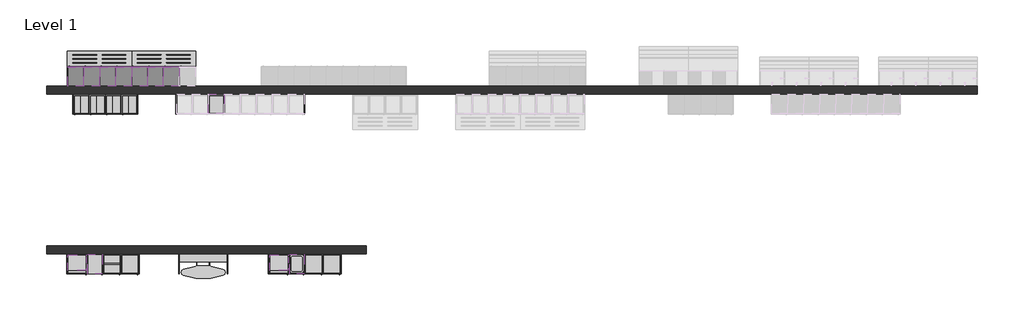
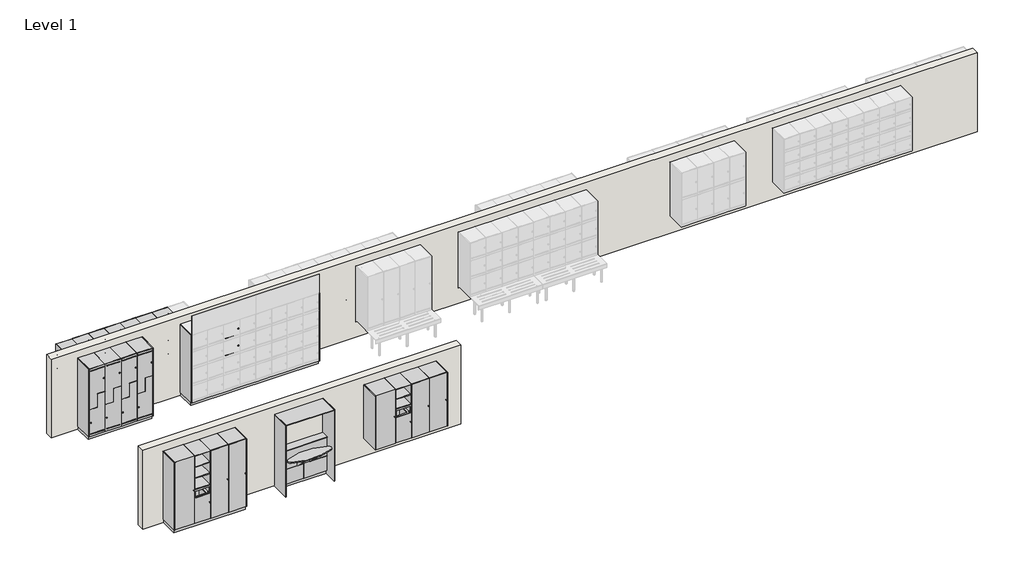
# One storey, part 1 of 4: 115 furniture elements, 2 walls.
"""IFC4 building model written with IfcOpenShell, lengths in millimetres."""

from ifc_helpers import new_model, si_unit, origin, origin_with_axes, place, context, project, spatial, polyline, outline, extrude, transform, mapped, element, save
from components import furniture_8c00c06e, furniture_f3d205c9, furniture_8214ae09, furniture_fe364a06, furniture_aa930519, standard_2dcb62da, standard_f5ae554c, standard_45df0485, standard_98e0e482, standard_d3161605, standard_4a91ac64, standard_77ee1bcb, standard_e3a21a26, standard_40445af7, standard_a614ba5f, standard_03c1f8a1, standard_9bb63482, standard_4930f884, standard_86fa131c, standard_540d4d76, standard_fa3f27c9, standard_7234d687, standard_b71e501f, standard_578dc294, standard_a6131b2d, standard_82cc17a7, standard_a539c340, standard_99a499ae, standard_25a9957e, standard_c9a665b5, standard_0a05bd14, standard_d1edd0f1, standard_a5c37325, standard_9a15c5b4, standard_f60cbfea

model = new_model("IFC4")

# Units and contexts
model_context = context("Model", 3, world=origin())
ifc_project = project(units=[si_unit("LENGTHUNIT", "METRE", prefix="MILLI")], contexts=[model_context])

# Site, building, storey
site = spatial("IfcSite", under=ifc_project)
building = spatial("IfcBuilding", under=site)
storey = spatial("IfcBuildingStorey", under=building, Name="Level 1", Elevation=0.0)

# Furniture
placement = place(None, origin())
furniture_shape = furniture_8c00c06e(model_context)
element("IfcFurniture", 1, ObjectType="Lockers-Bay-Duracube-Duraloc : LPM-1900h x 500d x 400w with 100h x 50d Plinth-Stepped", at=placement, inside=storey, context=model_context, shape_type="MappedRepresentation", body=[
    mapped(furniture_shape, transform((-10635.1575415, 2567.7422336, 0.0), x_axis=(1.0, 0.0, 0.0), y_axis=(0.0, 1.0, 0.0), z_axis=(0.0, 0.0, 1.0))),
])
furniture_2_shape = furniture_f3d205c9(model_context)
element("IfcFurniture", 2, ObjectType="Lockers-Bay-Duracube-Duraloc : LPM-1900h x 500d x 400w with 100h x 50d Plinth", at=placement, inside=storey, context=model_context, shape_type="MappedRepresentation", body=[
    mapped(furniture_2_shape, transform((-8055.1575415, 2567.7422336, 0.0), x_axis=(1.0, 0.0, 0.0), y_axis=(0.0, 1.0, 0.0), z_axis=(0.0, 0.0, 1.0))),
])
furniture_3_shape = furniture_8214ae09(model_context)
element("IfcFurniture", 3, ObjectType="Lockers-Bay-Duracube-Duraloc : LWM-1900h x 500d x 400w @ 470h Wall", at=placement, inside=storey, context=model_context, shape_type="MappedRepresentation", body=[
    mapped(furniture_3_shape, transform((-10368.1575415, 3267.7422336, 0.0), x_axis=(-1.0, 0.0, 0.0), y_axis=(0.0, -1.0, 0.0), z_axis=(0.0, 0.0, 1.0))),
])
furniture_4_shape = furniture_fe364a06(model_context)
element("IfcFurniture", 4, ObjectType="Lockers-Bay-Duracube-End of Trip : LPM-1900h x 500d with 100h x 50d Plinth", at=placement, inside=storey, context=model_context, shape_type="MappedRepresentation", body=[
    mapped(furniture_4_shape, transform((-10795.1575415, -1432.2577664, 0.0), x_axis=(1.0, 0.0, 0.0), y_axis=(0.0, 1.0, 0.0), z_axis=(0.0, 0.0, 1.0))),
])
furniture_5_shape = furniture_aa930519(model_context)
element("IfcFurniture", 5, ObjectType="Lockers-Bay-Duracube-End of Trip : LWM-1900h x 500d @ 470h Wall", at=placement, inside=storey, context=model_context, shape_type="MappedRepresentation", body=[
    mapped(furniture_5_shape, transform((-5743.1575415, -1432.2577664, 0.0), x_axis=(1.0, 0.0, 0.0), y_axis=(0.0, 1.0, 0.0), z_axis=(0.0, 0.0, 1.0))),
])
standard_shape = standard_2dcb62da(model_context)
element("IfcFurniture", 6, ObjectType="X_Bench-Foot-Duracube-Wall Assembly : Standard", at=placement, inside=storey, context=model_context, shape_type="MappedRepresentation", body=[
    mapped(standard_shape, transform((-8316.9572151, 3517.7422336, 0.0), x_axis=(-1.0, 0.0, 0.0), y_axis=(0.0, -1.0, 0.0), z_axis=(0.0, 0.0, 1.0))),
])
element("IfcFurniture", 7, ObjectType="X_Bench-Foot-Duracube-Wall Assembly : Standard", at=placement, inside=storey, context=model_context, shape_type="MappedRepresentation", body=[
    mapped(standard_shape, transform((-9236.9572151, 3517.7422336, 0.0), x_axis=(-1.0, 0.0, 0.0), y_axis=(0.0, -1.0, 0.0), z_axis=(0.0, 0.0, 1.0))),
])
element("IfcFurniture", 8, ObjectType="X_Bench-Foot-Duracube-Wall Assembly : Standard", at=placement, inside=storey, context=model_context, shape_type="MappedRepresentation", body=[
    mapped(standard_shape, transform((-9929.9572151, 3517.7422336, 0.0), x_axis=(-1.0, 0.0, 0.0), y_axis=(0.0, -1.0, 0.0), z_axis=(0.0, 0.0, 1.0))),
])
standard_2_shape = standard_f5ae554c(model_context)
element("IfcFurniture", 9, ObjectType="X_Bench-Foot-Duracube-Wall Assembly : Standard", at=placement, inside=storey, context=model_context, shape_type="MappedRepresentation", body=[
    mapped(standard_2_shape, transform((-9099.357868, 3517.7422336, 0.0), x_axis=(1.0, 0.0, 0.0), y_axis=(0.0, 1.0, 0.0), z_axis=(0.0, 0.0, 1.0))),
])
element("IfcFurniture", 10, ObjectType="X_Bench-Foot-Duracube-Wall Assembly : Standard", at=placement, inside=storey, context=model_context, shape_type="MappedRepresentation", body=[
    mapped(standard_2_shape, transform((-10712.357868, 3517.7422336, 0.0), x_axis=(1.0, 0.0, 0.0), y_axis=(0.0, 1.0, 0.0), z_axis=(0.0, 0.0, 1.0))),
])
standard_3_shape = standard_45df0485(model_context)
element("IfcFurniture", 11, ObjectType="X_Vanity-Angle-Duracube-Bench Support : Standard", at=placement, inside=storey, context=model_context, shape_type="MappedRepresentation", body=[
    mapped(standard_3_shape, transform((-8316.9572151, 3017.7422336, 417.0), x_axis=(-1.0, 0.0, 0.0), y_axis=(0.0, -1.0, 0.0), z_axis=(0.0, 0.0, 1.0))),
])
element("IfcFurniture", 12, ObjectType="X_Vanity-Angle-Duracube-Bench Support : Standard", at=placement, inside=storey, context=model_context, shape_type="MappedRepresentation", body=[
    mapped(standard_3_shape, transform((-9929.9572151, 3017.7422336, 417.0), x_axis=(-1.0, 0.0, 0.0), y_axis=(0.0, -1.0, 0.0), z_axis=(0.0, 0.0, 1.0))),
])
standard_4_shape = standard_98e0e482(model_context)
element("IfcFurniture", 13, ObjectType="X_Bench-Wall-Duracube-Locker : Standard", at=placement, inside=storey, context=model_context, shape_type="MappedRepresentation", body=[
    mapped(standard_4_shape, transform((-8316.9572151, 3110.2422336, 0.0), x_axis=(-1.0, 0.0, 0.0), y_axis=(0.0, -1.0, 0.0), z_axis=(0.0, 0.0, 1.0))),
])
element("IfcFurniture", 14, ObjectType="X_Bench-Wall-Duracube-Locker : Standard", at=placement, inside=storey, context=model_context, shape_type="MappedRepresentation", body=[
    mapped(standard_4_shape, transform((-9929.9572151, 3110.2422336, 0.0), x_axis=(-1.0, 0.0, 0.0), y_axis=(0.0, -1.0, 0.0), z_axis=(0.0, 0.0, 1.0))),
])
standard_5_shape = standard_d3161605(model_context)
element("IfcFurniture", 15, ObjectType="X_Locker-Duracube-Bay : Standard", at=placement, inside=storey, context=model_context, shape_type="MappedRepresentation", body=[
    mapped(standard_5_shape, transform((-9266.857868, 2817.7422336, 1180.0), x_axis=(1.0, 0.0, 0.0), y_axis=(0.0, 1.0, 0.0), z_axis=(0.0, 0.0, 1.0))),
])
element("IfcFurniture", 16, ObjectType="X_Locker-Duracube-Bay : Standard", at=placement, inside=storey, context=model_context, shape_type="MappedRepresentation", body=[
    mapped(standard_5_shape, transform((-9666.857868, 2817.7422336, 1180.0), x_axis=(1.0, 0.0, 0.0), y_axis=(0.0, 1.0, 0.0), z_axis=(0.0, 0.0, 1.0))),
])
element("IfcFurniture", 17, ObjectType="X_Locker-Duracube-Bay : Standard", at=placement, inside=storey, context=model_context, shape_type="MappedRepresentation", body=[
    mapped(standard_5_shape, transform((-10066.857868, 2817.7422336, 1180.0), x_axis=(1.0, 0.0, 0.0), y_axis=(0.0, 1.0, 0.0), z_axis=(0.0, 0.0, 1.0))),
])
element("IfcFurniture", 18, ObjectType="X_Locker-Duracube-Bay : Standard", at=placement, inside=storey, context=model_context, shape_type="MappedRepresentation", body=[
    mapped(standard_5_shape, transform((-10466.857868, 2817.7422336, 1180.0), x_axis=(1.0, 0.0, 0.0), y_axis=(0.0, 1.0, 0.0), z_axis=(0.0, 0.0, 1.0))),
])
standard_6_shape = standard_4a91ac64(model_context)
element("IfcFurniture", 19, ObjectType="X_Locker-Duracube-Door : Standard", at=placement, inside=storey, context=model_context, shape_type="MappedRepresentation", body=[
    mapped(standard_6_shape, transform((-9266.857868, 2330.7422336, 1180.0), x_axis=(1.0, 0.0, 0.0), y_axis=(0.0, 1.0, 0.0), z_axis=(0.0, 0.0, 1.0))),
])
element("IfcFurniture", 20, ObjectType="X_Locker-Duracube-Door : Standard", at=placement, inside=storey, context=model_context, shape_type="MappedRepresentation", body=[
    mapped(standard_6_shape, transform((-9666.857868, 2330.7422336, 1180.0), x_axis=(1.0, 0.0, 0.0), y_axis=(0.0, 1.0, 0.0), z_axis=(0.0, 0.0, 1.0))),
])
element("IfcFurniture", 21, ObjectType="X_Locker-Duracube-Door : Standard", at=placement, inside=storey, context=model_context, shape_type="MappedRepresentation", body=[
    mapped(standard_6_shape, transform((-10066.857868, 2330.7422336, 1180.0), x_axis=(1.0, 0.0, 0.0), y_axis=(0.0, 1.0, 0.0), z_axis=(0.0, 0.0, 1.0))),
])
element("IfcFurniture", 22, ObjectType="X_Locker-Duracube-Door : Standard", at=placement, inside=storey, context=model_context, shape_type="MappedRepresentation", body=[
    mapped(standard_6_shape, transform((-10466.857868, 2330.7422336, 1180.0), x_axis=(1.0, 0.0, 0.0), y_axis=(0.0, 1.0, 0.0), z_axis=(0.0, 0.0, 1.0))),
])
standard_7_shape = standard_77ee1bcb(model_context)
element("IfcFurniture", 23, ObjectType="X_Locker-Duracube-Bay : Standard", at=placement, inside=storey, context=model_context, shape_type="MappedRepresentation", body=[
    mapped(standard_7_shape, transform((-9266.857868, 2817.7422336, 100.0), x_axis=(1.0, 0.0, 0.0), y_axis=(0.0, 1.0, 0.0), z_axis=(0.0, 0.0, 1.0))),
])
element("IfcFurniture", 24, ObjectType="X_Locker-Duracube-Bay : Standard", at=placement, inside=storey, context=model_context, shape_type="MappedRepresentation", body=[
    mapped(standard_7_shape, transform((-9666.857868, 2817.7422336, 100.0), x_axis=(1.0, 0.0, 0.0), y_axis=(0.0, 1.0, 0.0), z_axis=(0.0, 0.0, 1.0))),
])
element("IfcFurniture", 25, ObjectType="X_Locker-Duracube-Bay : Standard", at=placement, inside=storey, context=model_context, shape_type="MappedRepresentation", body=[
    mapped(standard_7_shape, transform((-10066.857868, 2817.7422336, 100.0), x_axis=(1.0, 0.0, 0.0), y_axis=(0.0, 1.0, 0.0), z_axis=(0.0, 0.0, 1.0))),
])
element("IfcFurniture", 26, ObjectType="X_Locker-Duracube-Bay : Standard", at=placement, inside=storey, context=model_context, shape_type="MappedRepresentation", body=[
    mapped(standard_7_shape, transform((-10466.857868, 2817.7422336, 100.0), x_axis=(1.0, 0.0, 0.0), y_axis=(0.0, 1.0, 0.0), z_axis=(0.0, 0.0, 1.0))),
])
standard_8_shape = standard_e3a21a26(model_context)
element("IfcFurniture", 27, ObjectType="X_Locker-Duracube-Door : Standard", at=placement, inside=storey, context=model_context, shape_type="MappedRepresentation", body=[
    mapped(standard_8_shape, transform((-9266.857868, 2330.7422336, 100.0), x_axis=(1.0, 0.0, 0.0), y_axis=(0.0, 1.0, 0.0), z_axis=(0.0, 0.0, 1.0))),
])
element("IfcFurniture", 28, ObjectType="X_Locker-Duracube-Door : Standard", at=placement, inside=storey, context=model_context, shape_type="MappedRepresentation", body=[
    mapped(standard_8_shape, transform((-9666.857868, 2330.7422336, 100.0), x_axis=(1.0, 0.0, 0.0), y_axis=(0.0, 1.0, 0.0), z_axis=(0.0, 0.0, 1.0))),
])
element("IfcFurniture", 29, ObjectType="X_Locker-Duracube-Door : Standard", at=placement, inside=storey, context=model_context, shape_type="MappedRepresentation", body=[
    mapped(standard_8_shape, transform((-10066.857868, 2330.7422336, 100.0), x_axis=(1.0, 0.0, 0.0), y_axis=(0.0, 1.0, 0.0), z_axis=(0.0, 0.0, 1.0))),
])
element("IfcFurniture", 30, ObjectType="X_Locker-Duracube-Door : Standard", at=placement, inside=storey, context=model_context, shape_type="MappedRepresentation", body=[
    mapped(standard_8_shape, transform((-10466.857868, 2330.7422336, 100.0), x_axis=(1.0, 0.0, 0.0), y_axis=(0.0, 1.0, 0.0), z_axis=(0.0, 0.0, 1.0))),
])
standard_9_shape = standard_40445af7(model_context)
element("IfcFurniture", 31, ObjectType="X_Locker-Duracube-Bay : Standard", at=placement, inside=storey, context=model_context, shape_type="MappedRepresentation", body=[
    mapped(standard_9_shape, transform((-8123.4572151, 3017.7422336, 827.5), x_axis=(-1.0, 0.0, 0.0), y_axis=(0.0, -1.0, 0.0), z_axis=(0.0, 0.0, 1.0))),
])
element("IfcFurniture", 32, ObjectType="X_Locker-Duracube-Bay : Standard", at=placement, inside=storey, context=model_context, shape_type="MappedRepresentation", body=[
    mapped(standard_9_shape, transform((-8123.4572151, 3017.7422336, 1542.5), x_axis=(-1.0, 0.0, 0.0), y_axis=(0.0, -1.0, 0.0), z_axis=(0.0, 0.0, 1.0))),
])
element("IfcFurniture", 33, ObjectType="X_Locker-Duracube-Bay : Standard", at=placement, inside=storey, context=model_context, shape_type="MappedRepresentation", body=[
    mapped(standard_9_shape, transform((-8523.4572151, 3017.7422336, 470.0), x_axis=(-1.0, 0.0, 0.0), y_axis=(0.0, -1.0, 0.0), z_axis=(0.0, 0.0, 1.0))),
])
element("IfcFurniture", 34, ObjectType="X_Locker-Duracube-Bay : Standard", at=placement, inside=storey, context=model_context, shape_type="MappedRepresentation", body=[
    mapped(standard_9_shape, transform((-8523.4572151, 3017.7422336, 1185.0), x_axis=(-1.0, 0.0, 0.0), y_axis=(0.0, -1.0, 0.0), z_axis=(0.0, 0.0, 1.0))),
])
element("IfcFurniture", 35, ObjectType="X_Locker-Duracube-Bay : Standard", at=placement, inside=storey, context=model_context, shape_type="MappedRepresentation", body=[
    mapped(standard_9_shape, transform((-8923.4572151, 3017.7422336, 827.5), x_axis=(-1.0, 0.0, 0.0), y_axis=(0.0, -1.0, 0.0), z_axis=(0.0, 0.0, 1.0))),
])
element("IfcFurniture", 36, ObjectType="X_Locker-Duracube-Bay : Standard", at=placement, inside=storey, context=model_context, shape_type="MappedRepresentation", body=[
    mapped(standard_9_shape, transform((-8923.4572151, 3017.7422336, 1542.5), x_axis=(-1.0, 0.0, 0.0), y_axis=(0.0, -1.0, 0.0), z_axis=(0.0, 0.0, 1.0))),
])
element("IfcFurniture", 37, ObjectType="X_Locker-Duracube-Bay : Standard", at=placement, inside=storey, context=model_context, shape_type="MappedRepresentation", body=[
    mapped(standard_9_shape, transform((-9323.4572151, 3017.7422336, 470.0), x_axis=(-1.0, 0.0, 0.0), y_axis=(0.0, -1.0, 0.0), z_axis=(0.0, 0.0, 1.0))),
])
element("IfcFurniture", 38, ObjectType="X_Locker-Duracube-Bay : Standard", at=placement, inside=storey, context=model_context, shape_type="MappedRepresentation", body=[
    mapped(standard_9_shape, transform((-9323.4572151, 3017.7422336, 1185.0), x_axis=(-1.0, 0.0, 0.0), y_axis=(0.0, -1.0, 0.0), z_axis=(0.0, 0.0, 1.0))),
])
element("IfcFurniture", 39, ObjectType="X_Locker-Duracube-Bay : Standard", at=placement, inside=storey, context=model_context, shape_type="MappedRepresentation", body=[
    mapped(standard_9_shape, transform((-9723.4572151, 3017.7422336, 827.5), x_axis=(-1.0, 0.0, 0.0), y_axis=(0.0, -1.0, 0.0), z_axis=(0.0, 0.0, 1.0))),
])
element("IfcFurniture", 40, ObjectType="X_Locker-Duracube-Bay : Standard", at=placement, inside=storey, context=model_context, shape_type="MappedRepresentation", body=[
    mapped(standard_9_shape, transform((-9723.4572151, 3017.7422336, 1542.5), x_axis=(-1.0, 0.0, 0.0), y_axis=(0.0, -1.0, 0.0), z_axis=(0.0, 0.0, 1.0))),
])
element("IfcFurniture", 41, ObjectType="X_Locker-Duracube-Bay : Standard", at=placement, inside=storey, context=model_context, shape_type="MappedRepresentation", body=[
    mapped(standard_9_shape, transform((-10123.4572151, 3017.7422336, 470.0), x_axis=(-1.0, 0.0, 0.0), y_axis=(0.0, -1.0, 0.0), z_axis=(0.0, 0.0, 1.0))),
])
element("IfcFurniture", 42, ObjectType="X_Locker-Duracube-Bay : Standard", at=placement, inside=storey, context=model_context, shape_type="MappedRepresentation", body=[
    mapped(standard_9_shape, transform((-10123.4572151, 3017.7422336, 1185.0), x_axis=(-1.0, 0.0, 0.0), y_axis=(0.0, -1.0, 0.0), z_axis=(0.0, 0.0, 1.0))),
])
element("IfcFurniture", 43, ObjectType="X_Locker-Duracube-Bay : Standard", at=placement, inside=storey, context=model_context, shape_type="MappedRepresentation", body=[
    mapped(standard_9_shape, transform((-10523.4572151, 3017.7422336, 827.5), x_axis=(-1.0, 0.0, 0.0), y_axis=(0.0, -1.0, 0.0), z_axis=(0.0, 0.0, 1.0))),
])
element("IfcFurniture", 44, ObjectType="X_Locker-Duracube-Bay : Standard", at=placement, inside=storey, context=model_context, shape_type="MappedRepresentation", body=[
    mapped(standard_9_shape, transform((-10523.4572151, 3017.7422336, 1542.5), x_axis=(-1.0, 0.0, 0.0), y_axis=(0.0, -1.0, 0.0), z_axis=(0.0, 0.0, 1.0))),
])
standard_10_shape = standard_a614ba5f(model_context)
element("IfcFurniture", 45, ObjectType="X_Locker-Duracube-Door : Standard", at=placement, inside=storey, context=model_context, shape_type="MappedRepresentation", body=[
    mapped(standard_10_shape, transform((-8123.4572151, 3504.7422336, 827.5), x_axis=(-1.0, 0.0, 0.0), y_axis=(0.0, -1.0, 0.0), z_axis=(0.0, 0.0, 1.0))),
])
element("IfcFurniture", 46, ObjectType="X_Locker-Duracube-Door : Standard", at=placement, inside=storey, context=model_context, shape_type="MappedRepresentation", body=[
    mapped(standard_10_shape, transform((-8123.4572151, 3504.7422336, 1542.5), x_axis=(-1.0, 0.0, 0.0), y_axis=(0.0, -1.0, 0.0), z_axis=(0.0, 0.0, 1.0))),
])
element("IfcFurniture", 47, ObjectType="X_Locker-Duracube-Door : Standard", at=placement, inside=storey, context=model_context, shape_type="MappedRepresentation", body=[
    mapped(standard_10_shape, transform((-8523.4572151, 3504.7422336, 470.0), x_axis=(-1.0, 0.0, 0.0), y_axis=(0.0, -1.0, 0.0), z_axis=(0.0, 0.0, 1.0))),
])
element("IfcFurniture", 48, ObjectType="X_Locker-Duracube-Door : Standard", at=placement, inside=storey, context=model_context, shape_type="MappedRepresentation", body=[
    mapped(standard_10_shape, transform((-8523.4572151, 3504.7422336, 1185.0), x_axis=(-1.0, 0.0, 0.0), y_axis=(0.0, -1.0, 0.0), z_axis=(0.0, 0.0, 1.0))),
])
element("IfcFurniture", 49, ObjectType="X_Locker-Duracube-Door : Standard", at=placement, inside=storey, context=model_context, shape_type="MappedRepresentation", body=[
    mapped(standard_10_shape, transform((-8923.4572151, 3504.7422336, 827.5), x_axis=(-1.0, 0.0, 0.0), y_axis=(0.0, -1.0, 0.0), z_axis=(0.0, 0.0, 1.0))),
])
element("IfcFurniture", 50, ObjectType="X_Locker-Duracube-Door : Standard", at=placement, inside=storey, context=model_context, shape_type="MappedRepresentation", body=[
    mapped(standard_10_shape, transform((-8923.4572151, 3504.7422336, 1542.5), x_axis=(-1.0, 0.0, 0.0), y_axis=(0.0, -1.0, 0.0), z_axis=(0.0, 0.0, 1.0))),
])
element("IfcFurniture", 51, ObjectType="X_Locker-Duracube-Door : Standard", at=placement, inside=storey, context=model_context, shape_type="MappedRepresentation", body=[
    mapped(standard_10_shape, transform((-9323.4572151, 3504.7422336, 470.0), x_axis=(-1.0, 0.0, 0.0), y_axis=(0.0, -1.0, 0.0), z_axis=(0.0, 0.0, 1.0))),
])
element("IfcFurniture", 52, ObjectType="X_Locker-Duracube-Door : Standard", at=placement, inside=storey, context=model_context, shape_type="MappedRepresentation", body=[
    mapped(standard_10_shape, transform((-9323.4572151, 3504.7422336, 1185.0), x_axis=(-1.0, 0.0, 0.0), y_axis=(0.0, -1.0, 0.0), z_axis=(0.0, 0.0, 1.0))),
])
element("IfcFurniture", 53, ObjectType="X_Locker-Duracube-Door : Standard", at=placement, inside=storey, context=model_context, shape_type="MappedRepresentation", body=[
    mapped(standard_10_shape, transform((-9723.4572151, 3504.7422336, 827.5), x_axis=(-1.0, 0.0, 0.0), y_axis=(0.0, -1.0, 0.0), z_axis=(0.0, 0.0, 1.0))),
])
element("IfcFurniture", 54, ObjectType="X_Locker-Duracube-Door : Standard", at=placement, inside=storey, context=model_context, shape_type="MappedRepresentation", body=[
    mapped(standard_10_shape, transform((-9723.4572151, 3504.7422336, 1542.5), x_axis=(-1.0, 0.0, 0.0), y_axis=(0.0, -1.0, 0.0), z_axis=(0.0, 0.0, 1.0))),
])
element("IfcFurniture", 55, ObjectType="X_Locker-Duracube-Door : Standard", at=placement, inside=storey, context=model_context, shape_type="MappedRepresentation", body=[
    mapped(standard_10_shape, transform((-10123.4572151, 3504.7422336, 470.0), x_axis=(-1.0, 0.0, 0.0), y_axis=(0.0, -1.0, 0.0), z_axis=(0.0, 0.0, 1.0))),
])
element("IfcFurniture", 56, ObjectType="X_Locker-Duracube-Door : Standard", at=placement, inside=storey, context=model_context, shape_type="MappedRepresentation", body=[
    mapped(standard_10_shape, transform((-10123.4572151, 3504.7422336, 1185.0), x_axis=(-1.0, 0.0, 0.0), y_axis=(0.0, -1.0, 0.0), z_axis=(0.0, 0.0, 1.0))),
])
element("IfcFurniture", 57, ObjectType="X_Locker-Duracube-Door : Standard", at=placement, inside=storey, context=model_context, shape_type="MappedRepresentation", body=[
    mapped(standard_10_shape, transform((-10523.4572151, 3504.7422336, 827.5), x_axis=(-1.0, 0.0, 0.0), y_axis=(0.0, -1.0, 0.0), z_axis=(0.0, 0.0, 1.0))),
])
element("IfcFurniture", 58, ObjectType="X_Locker-Duracube-Door : Standard", at=placement, inside=storey, context=model_context, shape_type="MappedRepresentation", body=[
    mapped(standard_10_shape, transform((-10523.4572151, 3504.7422336, 1542.5), x_axis=(-1.0, 0.0, 0.0), y_axis=(0.0, -1.0, 0.0), z_axis=(0.0, 0.0, 1.0))),
])
element("IfcFurniture", 59, ObjectType="X_Locker-Duracube-Bay : Standard", at=placement, inside=storey, context=model_context, shape_type="MappedRepresentation", body=[
    mapped(standard_9_shape, transform((-8123.4572151, 3017.7422336, 1185.0), x_axis=(-1.0, 0.0, 0.0), y_axis=(0.0, -1.0, 0.0), z_axis=(0.0, 0.0, 1.0))),
])
element("IfcFurniture", 60, ObjectType="X_Locker-Duracube-Bay : Standard", at=placement, inside=storey, context=model_context, shape_type="MappedRepresentation", body=[
    mapped(standard_9_shape, transform((-8523.4572151, 3017.7422336, 827.5), x_axis=(-1.0, 0.0, 0.0), y_axis=(0.0, -1.0, 0.0), z_axis=(0.0, 0.0, 1.0))),
])
element("IfcFurniture", 61, ObjectType="X_Locker-Duracube-Bay : Standard", at=placement, inside=storey, context=model_context, shape_type="MappedRepresentation", body=[
    mapped(standard_9_shape, transform((-8923.4572151, 3017.7422336, 470.0), x_axis=(-1.0, 0.0, 0.0), y_axis=(0.0, -1.0, 0.0), z_axis=(0.0, 0.0, 1.0))),
])
element("IfcFurniture", 62, ObjectType="X_Locker-Duracube-Bay : Standard", at=placement, inside=storey, context=model_context, shape_type="MappedRepresentation", body=[
    mapped(standard_9_shape, transform((-9323.4572151, 3017.7422336, 1542.5), x_axis=(-1.0, 0.0, 0.0), y_axis=(0.0, -1.0, 0.0), z_axis=(0.0, 0.0, 1.0))),
])
element("IfcFurniture", 63, ObjectType="X_Locker-Duracube-Bay : Standard", at=placement, inside=storey, context=model_context, shape_type="MappedRepresentation", body=[
    mapped(standard_9_shape, transform((-9723.4572151, 3017.7422336, 470.0), x_axis=(-1.0, 0.0, 0.0), y_axis=(0.0, -1.0, 0.0), z_axis=(0.0, 0.0, 1.0))),
])
element("IfcFurniture", 64, ObjectType="X_Locker-Duracube-Bay : Standard", at=placement, inside=storey, context=model_context, shape_type="MappedRepresentation", body=[
    mapped(standard_9_shape, transform((-10123.4572151, 3017.7422336, 827.5), x_axis=(-1.0, 0.0, 0.0), y_axis=(0.0, -1.0, 0.0), z_axis=(0.0, 0.0, 1.0))),
])
element("IfcFurniture", 65, ObjectType="X_Locker-Duracube-Bay : Standard", at=placement, inside=storey, context=model_context, shape_type="MappedRepresentation", body=[
    mapped(standard_9_shape, transform((-10523.4572151, 3017.7422336, 1185.0), x_axis=(-1.0, 0.0, 0.0), y_axis=(0.0, -1.0, 0.0), z_axis=(0.0, 0.0, 1.0))),
])
element("IfcFurniture", 66, ObjectType="X_Locker-Duracube-Door : Standard", at=placement, inside=storey, context=model_context, shape_type="MappedRepresentation", body=[
    mapped(standard_10_shape, transform((-8123.4572151, 3504.7422336, 1185.0), x_axis=(-1.0, 0.0, 0.0), y_axis=(0.0, -1.0, 0.0), z_axis=(0.0, 0.0, 1.0))),
])
element("IfcFurniture", 67, ObjectType="X_Locker-Duracube-Door : Standard", at=placement, inside=storey, context=model_context, shape_type="MappedRepresentation", body=[
    mapped(standard_10_shape, transform((-8523.4572151, 3504.7422336, 827.5), x_axis=(-1.0, 0.0, 0.0), y_axis=(0.0, -1.0, 0.0), z_axis=(0.0, 0.0, 1.0))),
])
element("IfcFurniture", 68, ObjectType="X_Locker-Duracube-Door : Standard", at=placement, inside=storey, context=model_context, shape_type="MappedRepresentation", body=[
    mapped(standard_10_shape, transform((-8923.4572151, 3504.7422336, 470.0), x_axis=(-1.0, 0.0, 0.0), y_axis=(0.0, -1.0, 0.0), z_axis=(0.0, 0.0, 1.0))),
])
element("IfcFurniture", 69, ObjectType="X_Locker-Duracube-Door : Standard", at=placement, inside=storey, context=model_context, shape_type="MappedRepresentation", body=[
    mapped(standard_10_shape, transform((-9323.4572151, 3504.7422336, 1542.5), x_axis=(-1.0, 0.0, 0.0), y_axis=(0.0, -1.0, 0.0), z_axis=(0.0, 0.0, 1.0))),
])
element("IfcFurniture", 70, ObjectType="X_Locker-Duracube-Door : Standard", at=placement, inside=storey, context=model_context, shape_type="MappedRepresentation", body=[
    mapped(standard_10_shape, transform((-9723.4572151, 3504.7422336, 470.0), x_axis=(-1.0, 0.0, 0.0), y_axis=(0.0, -1.0, 0.0), z_axis=(0.0, 0.0, 1.0))),
])
element("IfcFurniture", 71, ObjectType="X_Locker-Duracube-Door : Standard", at=placement, inside=storey, context=model_context, shape_type="MappedRepresentation", body=[
    mapped(standard_10_shape, transform((-10123.4572151, 3504.7422336, 827.5), x_axis=(-1.0, 0.0, 0.0), y_axis=(0.0, -1.0, 0.0), z_axis=(0.0, 0.0, 1.0))),
])
element("IfcFurniture", 72, ObjectType="X_Locker-Duracube-Door : Standard", at=placement, inside=storey, context=model_context, shape_type="MappedRepresentation", body=[
    mapped(standard_10_shape, transform((-10523.4572151, 3504.7422336, 1185.0), x_axis=(-1.0, 0.0, 0.0), y_axis=(0.0, -1.0, 0.0), z_axis=(0.0, 0.0, 1.0))),
])
element("IfcFurniture", 73, ObjectType="X_Locker-Duracube-Bay : Standard", at=placement, inside=storey, context=model_context, shape_type="MappedRepresentation", body=[
    mapped(standard_9_shape, transform((-8123.4572151, 3017.7422336, 470.0), x_axis=(-1.0, 0.0, 0.0), y_axis=(0.0, -1.0, 0.0), z_axis=(0.0, 0.0, 1.0))),
])
element("IfcFurniture", 74, ObjectType="X_Locker-Duracube-Bay : Standard", at=placement, inside=storey, context=model_context, shape_type="MappedRepresentation", body=[
    mapped(standard_9_shape, transform((-8523.4572151, 3017.7422336, 1542.5), x_axis=(-1.0, 0.0, 0.0), y_axis=(0.0, -1.0, 0.0), z_axis=(0.0, 0.0, 1.0))),
])
element("IfcFurniture", 75, ObjectType="X_Locker-Duracube-Bay : Standard", at=placement, inside=storey, context=model_context, shape_type="MappedRepresentation", body=[
    mapped(standard_9_shape, transform((-8923.4572151, 3017.7422336, 1185.0), x_axis=(-1.0, 0.0, 0.0), y_axis=(0.0, -1.0, 0.0), z_axis=(0.0, 0.0, 1.0))),
])
element("IfcFurniture", 76, ObjectType="X_Locker-Duracube-Bay : Standard", at=placement, inside=storey, context=model_context, shape_type="MappedRepresentation", body=[
    mapped(standard_9_shape, transform((-9323.4572151, 3017.7422336, 827.5), x_axis=(-1.0, 0.0, 0.0), y_axis=(0.0, -1.0, 0.0), z_axis=(0.0, 0.0, 1.0))),
])
element("IfcFurniture", 77, ObjectType="X_Locker-Duracube-Bay : Standard", at=placement, inside=storey, context=model_context, shape_type="MappedRepresentation", body=[
    mapped(standard_9_shape, transform((-9723.4572151, 3017.7422336, 1185.0), x_axis=(-1.0, 0.0, 0.0), y_axis=(0.0, -1.0, 0.0), z_axis=(0.0, 0.0, 1.0))),
])
element("IfcFurniture", 78, ObjectType="X_Locker-Duracube-Bay : Standard", at=placement, inside=storey, context=model_context, shape_type="MappedRepresentation", body=[
    mapped(standard_9_shape, transform((-10123.4572151, 3017.7422336, 1542.5), x_axis=(-1.0, 0.0, 0.0), y_axis=(0.0, -1.0, 0.0), z_axis=(0.0, 0.0, 1.0))),
])
element("IfcFurniture", 79, ObjectType="X_Locker-Duracube-Bay : Standard", at=placement, inside=storey, context=model_context, shape_type="MappedRepresentation", body=[
    mapped(standard_9_shape, transform((-10523.4572151, 3017.7422336, 470.0), x_axis=(-1.0, 0.0, 0.0), y_axis=(0.0, -1.0, 0.0), z_axis=(0.0, 0.0, 1.0))),
])
element("IfcFurniture", 80, ObjectType="X_Locker-Duracube-Door : Standard", at=placement, inside=storey, context=model_context, shape_type="MappedRepresentation", body=[
    mapped(standard_10_shape, transform((-8123.4572151, 3504.7422336, 470.0), x_axis=(-1.0, 0.0, 0.0), y_axis=(0.0, -1.0, 0.0), z_axis=(0.0, 0.0, 1.0))),
])
element("IfcFurniture", 81, ObjectType="X_Locker-Duracube-Door : Standard", at=placement, inside=storey, context=model_context, shape_type="MappedRepresentation", body=[
    mapped(standard_10_shape, transform((-8523.4572151, 3504.7422336, 1542.5), x_axis=(-1.0, 0.0, 0.0), y_axis=(0.0, -1.0, 0.0), z_axis=(0.0, 0.0, 1.0))),
])
element("IfcFurniture", 82, ObjectType="X_Locker-Duracube-Door : Standard", at=placement, inside=storey, context=model_context, shape_type="MappedRepresentation", body=[
    mapped(standard_10_shape, transform((-8923.4572151, 3504.7422336, 1185.0), x_axis=(-1.0, 0.0, 0.0), y_axis=(0.0, -1.0, 0.0), z_axis=(0.0, 0.0, 1.0))),
])
element("IfcFurniture", 83, ObjectType="X_Locker-Duracube-Door : Standard", at=placement, inside=storey, context=model_context, shape_type="MappedRepresentation", body=[
    mapped(standard_10_shape, transform((-9323.4572151, 3504.7422336, 827.5), x_axis=(-1.0, 0.0, 0.0), y_axis=(0.0, -1.0, 0.0), z_axis=(0.0, 0.0, 1.0))),
])
element("IfcFurniture", 84, ObjectType="X_Locker-Duracube-Door : Standard", at=placement, inside=storey, context=model_context, shape_type="MappedRepresentation", body=[
    mapped(standard_10_shape, transform((-9723.4572151, 3504.7422336, 1185.0), x_axis=(-1.0, 0.0, 0.0), y_axis=(0.0, -1.0, 0.0), z_axis=(0.0, 0.0, 1.0))),
])
element("IfcFurniture", 85, ObjectType="X_Locker-Duracube-Door : Standard", at=placement, inside=storey, context=model_context, shape_type="MappedRepresentation", body=[
    mapped(standard_10_shape, transform((-10123.4572151, 3504.7422336, 1542.5), x_axis=(-1.0, 0.0, 0.0), y_axis=(0.0, -1.0, 0.0), z_axis=(0.0, 0.0, 1.0))),
])
element("IfcFurniture", 86, ObjectType="X_Locker-Duracube-Door : Standard", at=placement, inside=storey, context=model_context, shape_type="MappedRepresentation", body=[
    mapped(standard_10_shape, transform((-10523.4572151, 3504.7422336, 470.0), x_axis=(-1.0, 0.0, 0.0), y_axis=(0.0, -1.0, 0.0), z_axis=(0.0, 0.0, 1.0))),
])
standard_11_shape = standard_03c1f8a1(model_context)
element("IfcFurniture", 87, ObjectType="X_Locker-Duracube-Shelf : Standard", at=placement, inside=storey, context=model_context, shape_type="MappedRepresentation", body=[
    mapped(standard_11_shape, transform((-10576.857868, -795.7577664, 1493.0), x_axis=(1.0, 0.0, 0.0), y_axis=(0.0, 1.0, 0.0), z_axis=(0.0, 0.0, 1.0))),
])
element("IfcFurniture", 88, ObjectType="X_Locker-Duracube-Shelf : Standard", at=placement, inside=storey, context=model_context, shape_type="MappedRepresentation", body=[
    mapped(standard_11_shape, transform((-10576.857868, -795.7577664, 1087.0), x_axis=(1.0, 0.0, 0.0), y_axis=(0.0, 1.0, 0.0), z_axis=(0.0, 0.0, 1.0))),
])
element("IfcFurniture", 89, ObjectType="X_Locker-Duracube-Shelf : Standard", at=placement, inside=storey, context=model_context, shape_type="MappedRepresentation", body=[
    mapped(standard_11_shape, transform((-5524.857868, -795.7577664, 1493.0), x_axis=(1.0, 0.0, 0.0), y_axis=(0.0, 1.0, 0.0), z_axis=(0.0, 0.0, 1.0))),
])
element("IfcFurniture", 90, ObjectType="X_Locker-Duracube-Shelf : Standard", at=placement, inside=storey, context=model_context, shape_type="MappedRepresentation", body=[
    mapped(standard_11_shape, transform((-5524.857868, -795.7577664, 1087.0), x_axis=(1.0, 0.0, 0.0), y_axis=(0.0, 1.0, 0.0), z_axis=(0.0, 0.0, 1.0))),
])
standard_12_shape = standard_9bb63482(model_context)
element("IfcFurniture", 91, ObjectType="X_Locker-Duracube-Shelf : Standard", at=placement, inside=storey, context=model_context, shape_type="MappedRepresentation", body=[
    mapped(standard_12_shape, transform((-10576.857868, -876.7577664, 664.0), x_axis=(1.0, 0.0, 0.0), y_axis=(0.0, 1.0, 0.0), z_axis=(0.0, 0.0, 1.0))),
])
standard_13_shape = standard_4930f884(model_context)
element("IfcFurniture", 92, ObjectType="X_Locker-Duracube-Door : Standard", at=placement, inside=storey, context=model_context, shape_type="MappedRepresentation", body=[
    mapped(standard_13_shape, transform((-10576.857868, -1669.2577664, 100.0), x_axis=(1.0, 0.0, 0.0), y_axis=(0.0, 1.0, 0.0), z_axis=(0.0, 0.0, 1.0))),
])
standard_14_shape = standard_86fa131c(model_context)
element("IfcFurniture", 93, ObjectType="X_Locker-Duracube-Door : Standard", at=placement, inside=storey, context=model_context, shape_type="MappedRepresentation", body=[
    mapped(standard_14_shape, transform((-5524.857868, -1669.2577664, 470.0), x_axis=(1.0, 0.0, 0.0), y_axis=(0.0, 1.0, 0.0), z_axis=(0.0, 0.0, 1.0))),
])
standard_15_shape = standard_540d4d76(model_context)
element("IfcFurniture", 94, ObjectType="X_Locker-Duracube-EOT Bay : Standard", at=placement, inside=storey, context=model_context, shape_type="MappedRepresentation", body=[
    mapped(standard_15_shape, transform((-10576.857868, -1182.2577664, 100.0), x_axis=(1.0, 0.0, 0.0), y_axis=(0.0, 1.0, 0.0), z_axis=(0.0, 0.0, 1.0))),
])
standard_16_shape = standard_fa3f27c9(model_context)
element("IfcFurniture", 95, ObjectType="X_Locker-Duracube-EOT Bay : Standard", at=placement, inside=storey, context=model_context, shape_type="MappedRepresentation", body=[
    mapped(standard_16_shape, transform((-5524.857868, -1182.2577664, 470.0), x_axis=(1.0, 0.0, 0.0), y_axis=(0.0, 1.0, 0.0), z_axis=(0.0, 0.0, 1.0))),
])
standard_17_shape = standard_7234d687(model_context)
element("IfcFurniture", 96, ObjectType="X_Locker-Duracube-EOT Bay : Standard", at=placement, inside=storey, context=model_context, shape_type="MappedRepresentation", body=[
    mapped(standard_17_shape, transform((-10126.857868, -1182.2577664, 100.0), x_axis=(1.0, 0.0, 0.0), y_axis=(0.0, 1.0, 0.0), z_axis=(0.0, 0.0, 1.0))),
])
standard_18_shape = standard_b71e501f(model_context)
element("IfcFurniture", 97, ObjectType="X_Locker-Duracube-Shelf : Standard", at=placement, inside=storey, context=model_context, shape_type="MappedRepresentation", body=[
    mapped(standard_18_shape, transform((-10126.857868, -889.7577664, 1294.6666667), x_axis=(1.0, 0.0, 0.0), y_axis=(0.0, 1.0, 0.0), z_axis=(0.0, 0.0, 1.0))),
])
element("IfcFurniture", 98, ObjectType="X_Locker-Duracube-Shelf : Standard", at=placement, inside=storey, context=model_context, shape_type="MappedRepresentation", body=[
    mapped(standard_18_shape, transform((-10126.857868, -889.7577664, 1589.3333333), x_axis=(1.0, 0.0, 0.0), y_axis=(0.0, 1.0, 0.0), z_axis=(0.0, 0.0, 1.0))),
])
element("IfcFurniture", 99, ObjectType="X_Locker-Duracube-Shelf : Standard", at=placement, inside=storey, context=model_context, shape_type="MappedRepresentation", body=[
    mapped(standard_18_shape, transform((-5074.857868, -889.7577664, 1627.0), x_axis=(1.0, 0.0, 0.0), y_axis=(0.0, 1.0, 0.0), z_axis=(0.0, 0.0, 1.0))),
])
standard_19_shape = standard_578dc294(model_context)
element("IfcFurniture", 100, ObjectType="X_Locker-Duracube-EOT Bay : Standard", at=placement, inside=storey, context=model_context, shape_type="MappedRepresentation", body=[
    mapped(standard_19_shape, transform((-9701.857868, -1182.2577664, 100.0), x_axis=(1.0, 0.0, 0.0), y_axis=(0.0, 1.0, 0.0), z_axis=(0.0, 0.0, 1.0))),
])
standard_20_shape = standard_a6131b2d(model_context)
element("IfcFurniture", 101, ObjectType="X_Locker-Duracube-Door : Standard", at=placement, inside=storey, context=model_context, shape_type="MappedRepresentation", body=[
    mapped(standard_20_shape, transform((-9701.857868, -1669.2577664, 100.0), x_axis=(1.0, 0.0, 0.0), y_axis=(0.0, 1.0, 0.0), z_axis=(0.0, 0.0, 1.0))),
])
element("IfcFurniture", 102, ObjectType="X_Locker-Duracube-Door : Standard", at=placement, inside=storey, context=model_context, shape_type="MappedRepresentation", body=[
    mapped(standard_20_shape, transform((-9251.857868, -1669.2577664, 100.0), x_axis=(1.0, 0.0, 0.0), y_axis=(0.0, 1.0, 0.0), z_axis=(0.0, 0.0, 1.0))),
])
standard_21_shape = standard_82cc17a7(model_context)
element("IfcFurniture", 103, ObjectType="X_Locker-Duracube-EOT Bay : Standard", at=placement, inside=storey, context=model_context, shape_type="MappedRepresentation", body=[
    mapped(standard_21_shape, transform((-9251.857868, -1182.2577664, 100.0), x_axis=(1.0, 0.0, 0.0), y_axis=(0.0, 1.0, 0.0), z_axis=(0.0, 0.0, 1.0))),
])
standard_22_shape = standard_a539c340(model_context)
element("IfcFurniture", 104, ObjectType="X_Locker-Duracube-EOT Bay : Standard", at=placement, inside=storey, context=model_context, shape_type="MappedRepresentation", body=[
    mapped(standard_22_shape, transform((-5074.857868, -1182.2577664, 470.0), x_axis=(1.0, 0.0, 0.0), y_axis=(0.0, 1.0, 0.0), z_axis=(0.0, 0.0, 1.0))),
])
standard_23_shape = standard_99a499ae(model_context)
element("IfcFurniture", 105, ObjectType="X_Locker-Duracube-EOT Bay : Standard", at=placement, inside=storey, context=model_context, shape_type="MappedRepresentation", body=[
    mapped(standard_23_shape, transform((-4649.857868, -1182.2577664, 470.0), x_axis=(1.0, 0.0, 0.0), y_axis=(0.0, 1.0, 0.0), z_axis=(0.0, 0.0, 1.0))),
])
standard_24_shape = standard_25a9957e(model_context)
element("IfcFurniture", 106, ObjectType="X_Locker-Duracube-Door : Standard", at=placement, inside=storey, context=model_context, shape_type="MappedRepresentation", body=[
    mapped(standard_24_shape, transform((-4649.857868, -1669.2577664, 470.0), x_axis=(1.0, 0.0, 0.0), y_axis=(0.0, 1.0, 0.0), z_axis=(0.0, 0.0, 1.0))),
])
element("IfcFurniture", 107, ObjectType="X_Locker-Duracube-Door : Standard", at=placement, inside=storey, context=model_context, shape_type="MappedRepresentation", body=[
    mapped(standard_24_shape, transform((-4199.857868, -1669.2577664, 470.0), x_axis=(1.0, 0.0, 0.0), y_axis=(0.0, 1.0, 0.0), z_axis=(0.0, 0.0, 1.0))),
])
element("IfcFurniture", 108, ObjectType="X_Locker-Duracube-EOT Bay : Standard", at=placement, inside=storey, context=model_context, shape_type="MappedRepresentation", body=[
    mapped(standard_23_shape, transform((-4199.857868, -1182.2577664, 470.0), x_axis=(1.0, 0.0, 0.0), y_axis=(0.0, 1.0, 0.0), z_axis=(0.0, 0.0, 1.0))),
])
standard_25_shape = standard_c9a665b5(model_context)
element("IfcFurniture", 109, ObjectType="X_Locker-Duracube-Fixed Ironing Kitset : Standard", at=placement, inside=storey, context=model_context, shape_type="MappedRepresentation", body=[
    mapped(standard_25_shape, transform((-7419.857868, -1487.2577664, 875.0), x_axis=(1.0, 0.0, 0.0), y_axis=(0.0, 1.0, 0.0), z_axis=(0.0, 0.0, 1.0))),
])
standard_26_shape = standard_0a05bd14(model_context)
element("IfcFurniture", 110, ObjectType="Locker-Bay-Duracube-Fixed Ironing Board Unit : Standard", at=placement, inside=storey, context=model_context, shape_type="MappedRepresentation", body=[
    mapped(standard_26_shape, transform((-7419.857868, -1182.2577664, 0.0), x_axis=(1.0, 0.0, 0.0), y_axis=(0.0, 1.0, 0.0), z_axis=(0.0, 0.0, 1.0))),
])
standard_27_shape = standard_d1edd0f1(model_context)
element("IfcFurniture", 111, ObjectType="X_Locker-Duracube-Door : Standard", at=placement, inside=storey, context=model_context, shape_type="MappedRepresentation", body=[
    mapped(standard_27_shape, transform((-7719.857868, -1369.2577664, 100.0), x_axis=(1.0, 0.0, 0.0), y_axis=(0.0, 1.0, 0.0), z_axis=(0.0, 0.0, 1.0))),
])
standard_28_shape = standard_a5c37325(model_context)
element("IfcFurniture", 112, ObjectType="X_Locker-Duracube-Door : Standard", at=placement, inside=storey, context=model_context, shape_type="MappedRepresentation", body=[
    mapped(standard_28_shape, transform((-7030.4572151, -1369.2577664, 100.0), x_axis=(-1.0, 0.0, 0.0), y_axis=(0.0, -1.0, 0.0), z_axis=(0.0, 0.0, 1.0))),
])
standard_29_shape = standard_9a15c5b4(model_context)
element("IfcFurniture", 113, ObjectType="X_Locker-Duracube-Panel : Standard", at=placement, inside=storey, context=model_context, shape_type="MappedRepresentation", body=[
    mapped(standard_29_shape, transform((-8084.357868, 2330.7422336, 1900.0), x_axis=(1.0, 0.0, 0.0), y_axis=(0.0, 1.0, 0.0), z_axis=(0.0, 0.0, 1.0))),
])
standard_30_shape = standard_f60cbfea(model_context)
element("IfcFurniture", 114, ObjectType="X_Locker-Duracube-Bay : Standard", at=placement, inside=storey, context=model_context, shape_type="MappedRepresentation", body=[
    mapped(standard_30_shape, transform((-7086.857868, 2817.7422336, 1450.0), x_axis=(1.0, 0.0, 0.0), y_axis=(0.0, 1.0, 0.0), z_axis=(0.0, 0.0, 1.0))),
])
element("IfcFurniture", 115, ObjectType="X_Locker-Duracube-Bay : Standard", at=placement, inside=storey, context=model_context, shape_type="MappedRepresentation", body=[
    mapped(standard_30_shape, transform((-7086.857868, 2817.7422336, 1000.0), x_axis=(1.0, 0.0, 0.0), y_axis=(0.0, 1.0, 0.0), z_axis=(0.0, 0.0, 1.0))),
])

# Walls
element("IfcWall", 116, ObjectType="Generic - 200mm", at=placement, inside=storey, context=model_context, shape_type="SweptSolid", body=[
    extrude(outline(polyline([(12004.8424585, 2817.7422336), (-11295.1575415, 2817.7422336), (-11295.1575415, 3017.7422336), (12004.8424585, 3017.7422336), (12004.8424585, 2817.7422336)])), origin_with_axes(), (0.0, 0.0, 1.0), 2100.0),
])
element("IfcWall", 117, ObjectType="Generic - 200mm", at=placement, inside=storey, context=model_context, shape_type="SweptSolid", body=[
    extrude(outline(polyline([(-3295.1575415, -1182.2577664), (-11295.1575415, -1182.2577664), (-11295.1575415, -982.2577664), (-3295.1575415, -982.2577664), (-3295.1575415, -1182.2577664)])), origin_with_axes(), (0.0, 0.0, 1.0), 2100.0),
])

save(model, "model.ifc")
